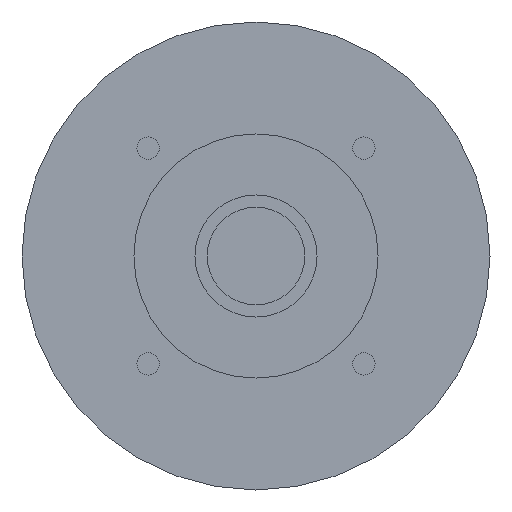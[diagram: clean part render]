
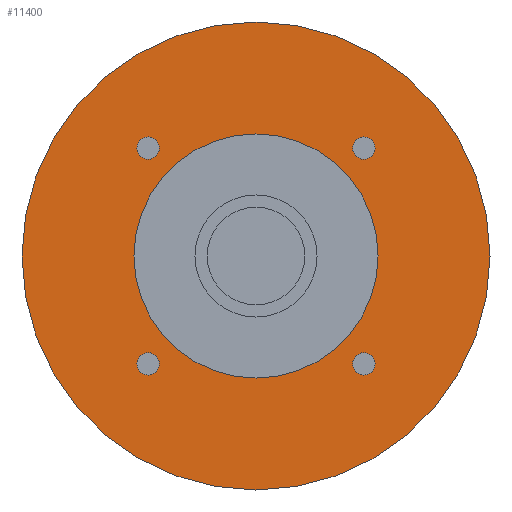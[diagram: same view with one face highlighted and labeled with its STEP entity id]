
A CAD part, left-side view. The second image highlights one B-rep face of the part: STEP entity #11400.
In plain terms, the highlighted planar face has unit normal (-1, 0, 0) as drawn and (0, 0, -1) by its records, which use the part's own axes.
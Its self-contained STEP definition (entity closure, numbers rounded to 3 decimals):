
#10320=CARTESIAN_POINT('',(-57.5,0.,-65.6));
#10330=VERTEX_POINT('',#10320);
#10410=CARTESIAN_POINT('',(57.5,0.,-65.6));
#10420=VERTEX_POINT('',#10410);
#10450=CARTESIAN_POINT('',(0.,0.,
-65.6));
#10460=DIRECTION('',(0.,0.,1.));
#10470=DIRECTION('',(1.,0.,0.));
#10480=AXIS2_PLACEMENT_3D('',#10450,#10460,#10470);
#10490=CIRCLE('',#10480,57.5);
#10500=EDGE_CURVE('',#10330,#10420,#10490,.T.);
#10550=CARTESIAN_POINT('',(43.75,0.,-65.6));
#10560=DIRECTION('',(0.,0.,-1.));
#10570=DIRECTION('',(1.,0.,0.));
#10580=AXIS2_PLACEMENT_3D('',#10550,#10560,#10570);
#10590=PLANE('',#10580);
#10600=CARTESIAN_POINT('',(0.,0.,
-65.6));
#10610=DIRECTION('',(0.,0.,1.));
#10620=DIRECTION('',(1.,0.,0.));
#10630=AXIS2_PLACEMENT_3D('',#10600,#10610,#10620);
#10640=CIRCLE('',#10630,30.);
#10650=CARTESIAN_POINT('',(30.,0.,-65.6));
#10660=VERTEX_POINT('',#10650);
#10670=CARTESIAN_POINT('',(-30.,0.,-65.6));
#10680=VERTEX_POINT('',#10670);
#10690=EDGE_CURVE('',#10660,#10680,#10640,.T.);
#10700=ORIENTED_EDGE('',*,*,#10690,.T.);
#10710=EDGE_CURVE('',#10680,#10660,#10640,.T.);
#10720=ORIENTED_EDGE('',*,*,#10710,.T.);
#10730=EDGE_LOOP('',(#10720,#10700));
#10740=FACE_BOUND('',#10730,.T.);
#10750=EDGE_CURVE('',#10420,#10330,#10490,.T.);
#10760=ORIENTED_EDGE('',*,*,#10750,.F.);
#10770=ORIENTED_EDGE('',*,*,#10500,.F.);
#10780=EDGE_LOOP('',(#10770,#10760));
#10790=FACE_OUTER_BOUND('',#10780,.T.);
#10800=CARTESIAN_POINT('',(26.517,-26.517,-65.6));
#10810=DIRECTION('',(0.,0.,1.));
#10820=DIRECTION('',(-1.,0.,0.));
#10830=AXIS2_PLACEMENT_3D('',#10800,#10810,#10820);
#10840=CIRCLE('',#10830,2.75);
#10850=CARTESIAN_POINT('',(23.767,-26.517,-65.6));
#10860=VERTEX_POINT('',#10850);
#10870=CARTESIAN_POINT('',(29.267,-26.517,-65.6));
#10880=VERTEX_POINT('',#10870);
#10890=EDGE_CURVE('',#10860,#10880,#10840,.T.);
#10900=ORIENTED_EDGE('',*,*,#10890,.T.);
#10910=EDGE_CURVE('',#10880,#10860,#10840,.T.);
#10920=ORIENTED_EDGE('',*,*,#10910,.T.);
#10930=EDGE_LOOP('',(#10920,#10900));
#10940=FACE_BOUND('',#10930,.T.);
#10950=CARTESIAN_POINT('',(-26.517,-26.517,-65.6));
#10960=DIRECTION('',(0.,0.,1.));
#10970=DIRECTION('',(-1.,0.,0.));
#10980=AXIS2_PLACEMENT_3D('',#10950,#10960,#10970);
#10990=CIRCLE('',#10980,2.75);
#11000=CARTESIAN_POINT('',(-29.267,-26.517,-65.6));
#11010=VERTEX_POINT('',#11000);
#11020=CARTESIAN_POINT('',(-23.767,-26.517,-65.6));
#11030=VERTEX_POINT('',#11020);
#11040=EDGE_CURVE('',#11010,#11030,#10990,.T.);
#11050=ORIENTED_EDGE('',*,*,#11040,.T.);
#11060=EDGE_CURVE('',#11030,#11010,#10990,.T.);
#11070=ORIENTED_EDGE('',*,*,#11060,.T.);
#11080=EDGE_LOOP('',(#11070,#11050));
#11090=FACE_BOUND('',#11080,.T.);
#11100=CARTESIAN_POINT('',(-26.517,26.517,-65.6));
#11110=DIRECTION('',(0.,0.,1.));
#11120=DIRECTION('',(-1.,0.,0.));
#11130=AXIS2_PLACEMENT_3D('',#11100,#11110,#11120);
#11140=CIRCLE('',#11130,2.75);
#11150=CARTESIAN_POINT('',(-29.267,26.517,-65.6));
#11160=VERTEX_POINT('',#11150);
#11170=CARTESIAN_POINT('',(-23.767,26.517,-65.6));
#11180=VERTEX_POINT('',#11170);
#11190=EDGE_CURVE('',#11160,#11180,#11140,.T.);
#11200=ORIENTED_EDGE('',*,*,#11190,.T.);
#11210=EDGE_CURVE('',#11180,#11160,#11140,.T.);
#11220=ORIENTED_EDGE('',*,*,#11210,.T.);
#11230=EDGE_LOOP('',(#11220,#11200));
#11240=FACE_BOUND('',#11230,.T.);
#11250=CARTESIAN_POINT('',(26.517,26.517,-65.6));
#11260=DIRECTION('',(0.,0.,1.));
#11270=DIRECTION('',(-1.,0.,0.));
#11280=AXIS2_PLACEMENT_3D('',#11250,#11260,#11270);
#11290=CIRCLE('',#11280,2.75);
#11300=CARTESIAN_POINT('',(23.767,26.517,-65.6));
#11310=VERTEX_POINT('',#11300);
#11320=CARTESIAN_POINT('',(29.267,26.517,-65.6));
#11330=VERTEX_POINT('',#11320);
#11340=EDGE_CURVE('',#11310,#11330,#11290,.T.);
#11350=ORIENTED_EDGE('',*,*,#11340,.T.);
#11360=EDGE_CURVE('',#11330,#11310,#11290,.T.);
#11370=ORIENTED_EDGE('',*,*,#11360,.T.);
#11380=EDGE_LOOP('',(#11370,#11350));
#11390=FACE_BOUND('',#11380,.T.);
#11400=ADVANCED_FACE('',(#10740,#10790,#10940,#11090,#11240,#11390),
#10590,.T.);
